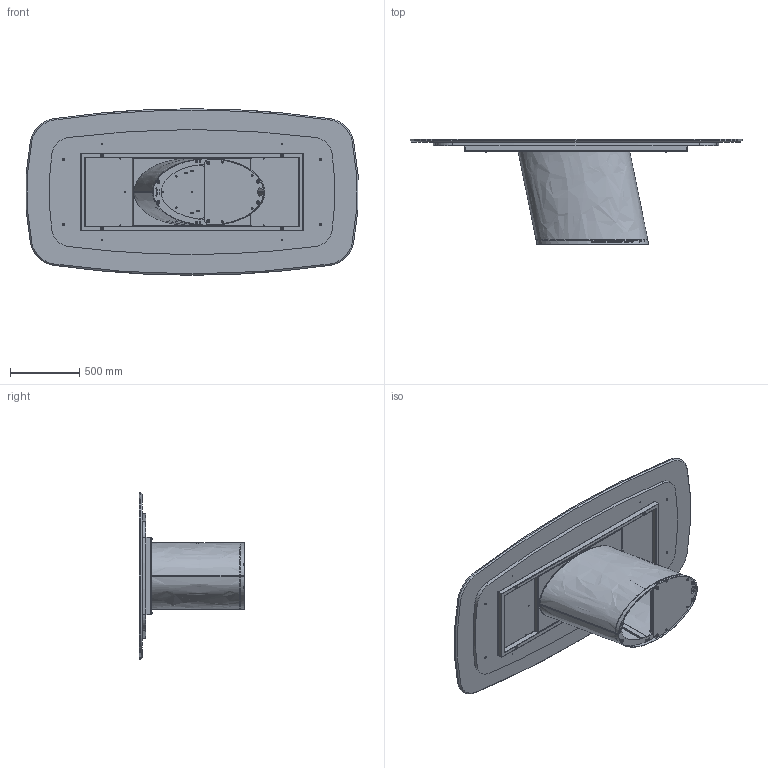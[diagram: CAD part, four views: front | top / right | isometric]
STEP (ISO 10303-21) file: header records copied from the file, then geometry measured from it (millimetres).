
FILE_DESCRIPTION (( 'STEP AP203' ), '1' );
FILE_NAME ('DO43M.STEP', '2024-08-06T13:15:42', ( '' ), ( '' ), 'SwSTEP 2.0', 'SolidWorks 2022', '' );
FILE_SCHEMA (( 'CONFIG_CONTROL_DESIGN' ));
Length unit declared in the file: millimetre
Products named in the file (24): DOB000000_06-00-Lamiera guscio dx_Default<A macchina>; DO43M; M4XMXX-00-Piani Sagomati in marmo_2400x1200; TTAV01-05-TELAIO UNIVERSALE X TAVOLI 180 240cm; piedino dorado; DOB000000-00-DORADO BASE GREZZO; COLLO TELAIO UNIVERSALE TTAV01 CON FERRAMENTA_MTG TOP LEGNO-MARMO-KING; DOB000000_07-00-lamiera guscio sx_Default<A macchina>; M8xXXmm_M8x20mm; nut_M8_M8; DOB000000_02-00-barra rettangoalre di supporto_Default<A macchina>; DOB000000_04-00-contrapesso filettato_Default<A macchina>; TRUXXXXXX-00-NOBILITATO GR CON SUPP TRUCIOLARE SP. 25_TRU00007_2100x900; TTAV01_01-05-TELAIO UNIVERSALE X TAVOLI 180 240cm; TTAV01_02-05-VASSOIO IRRIGIDIMENTO TELAIO UNIVERSALE; barra filettata H.72cm_barra; DOB000000_01-00-piastra superiore _Default<A macchina>; M4X-00-Piani Sagomati in marmo_2400 x 1200; M8xXXmm_M8X30mm; M8xXXmm_M8x55mm; DOB000000_05-00-Zavorra intenra del dorado_Default<A macchina>; DOB000000_03-00-Piastra  inferiore_Default<A macchina>; DOB000000_08-00-Zavorra inferiore_Default<A macchina>; rondella M8_8X24
Assembly tree (52 placements, depth 4):
  DO43M
    DOB000000-00-DORADO BASE GREZZO
      DOB000000_08-00-Zavorra inferiore_Default<A macchina>
      DOB000000_04-00-contrapesso filettato_Default<A macchina>
      DOB000000_05-00-Zavorra intenra del dorado_Default<A macchina>  x4
      DOB000000_01-00-piastra superiore _Default<A macchina>
      DOB000000_07-00-lamiera guscio sx_Default<A macchina>
      DOB000000_02-00-barra rettangoalre di supporto_Default<A macchina>  x4
      DOB000000_03-00-Piastra  inferiore_Default<A macchina>
      DOB000000_06-00-Lamiera guscio dx_Default<A macchina>
      M8xXXmm_M8X30mm  x4
      nut_M8_M8  x2
      piedino dorado  x6
      barra filettata H.72cm_barra  x2
    COLLO TELAIO UNIVERSALE TTAV01 CON FERRAMENTA_MTG TOP LEGNO-MARMO-KING
      TTAV01-05-TELAIO UNIVERSALE X TAVOLI 180 240cm
        TTAV01_02-05-VASSOIO IRRIGIDIMENTO TELAIO UNIVERSALE
        TTAV01_01-05-TELAIO UNIVERSALE X TAVOLI 180 240cm
      rondella M8_8X24  x4
      M8xXXmm_M8x55mm  x4
    rondella M8_8X24  x4
    M8xXXmm_M8x20mm  x4
    M4XMXX-00-Piani Sagomati in marmo_2400x1200
      M4X-00-Piani Sagomati in marmo_2400 x 1200
      TRUXXXXXX-00-NOBILITATO GR CON SUPP TRUCIOLARE SP. 25_TRU00007_2100x900
Bounding box: 2391.9 x 757 x 1200 mm (x, y, z)
Volume: 107952203.2 mm3; surface area: 16245171 mm2
Topology: 54 solids, 54 shells, 1521 faces, 3635 edges, 2209 vertices
Faces by surface type: cylinder 570, plane 510, cone 235, torus 172, bspline 26, sphere 8
Entity records: 32154 total; most frequent: CARTESIAN_POINT 8738, DIRECTION 4404, ORIENTED_EDGE 4014, EDGE_CURVE 2007, AXIS2_PLACEMENT_3D 1679, VERTEX_POINT 1275, LINE 1046, VECTOR 1046
